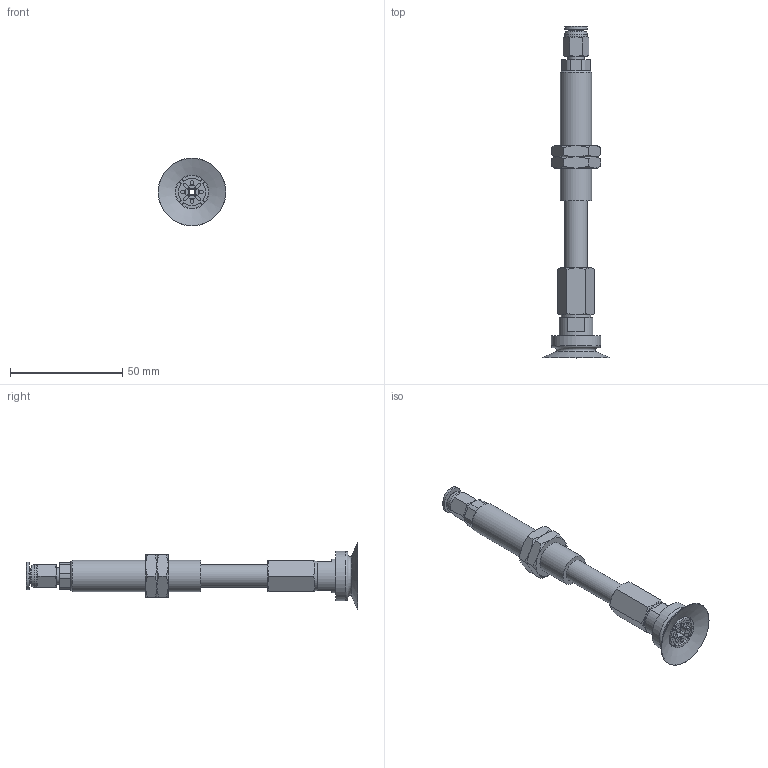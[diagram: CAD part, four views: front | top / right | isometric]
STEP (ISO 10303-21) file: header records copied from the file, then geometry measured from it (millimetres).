
FILE_DESCRIPTION(('STEP AP203'),'1');
FILE_NAME('-O.stp','2025-08-26T09:05:26',(' '),(' '),'Spatial InterOp 3D',' ',' ');
FILE_SCHEMA(('CONFIG_CONTROL_DESIGN'));
Length unit declared in the file: millimetre
Products named in the file (7): BNABPATS-30-30-※-O; ADAPTER; NAPATS-30B-30--M; NAPATS-30B-30--F; Nut-25-S; PC-C_06-M5; BPAG-30-※
Assembly tree (7 placements, depth 2):
  BNABPATS-30-30-※-O
    ADAPTER
    NAPATS-30B-30--M
    NAPATS-30B-30--F
    Nut-25-S  x2
    PC-C_06-M5
    BPAG-30-※
Bounding box: 30.3 x 148.18 x 30.3 mm (x, y, z)
Volume: 20438.6 mm3; surface area: 16196.4 mm2
Topology: 6 solids, 9 shells, 233 faces, 525 edges, 328 vertices
Faces by surface type: plane 94, cylinder 66, cone 62, bspline 4, torus 4, revolution 3
Full cylindrical faces by diameter (mm): 3 x3, 4 x2, 4.134 x1, 4.6 x1, 4.917 x1, 5 x1, 6 x1, 7 x1, 7.4 x1, 8.2 x1, 10 x3, 12.917 x2, 13 x1, 14 x1, 15 x1, 22 x1
Entity records: 6507 total; most frequent: CARTESIAN_POINT 1631, DIRECTION 974, ORIENTED_EDGE 862, EDGE_CURVE 433, AXIS2_PLACEMENT_3D 406, VERTEX_POINT 295, EDGE_LOOP 280, CIRCLE 196
